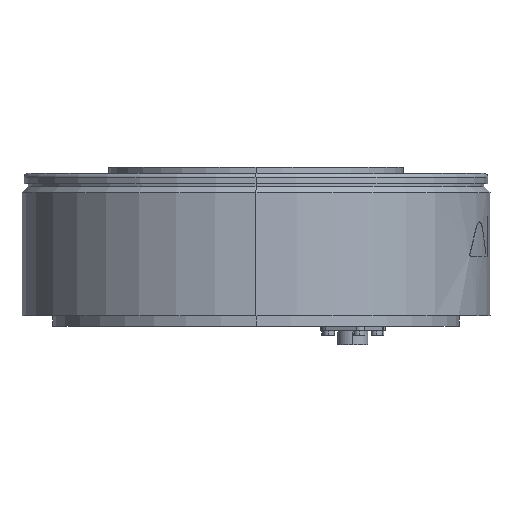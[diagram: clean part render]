
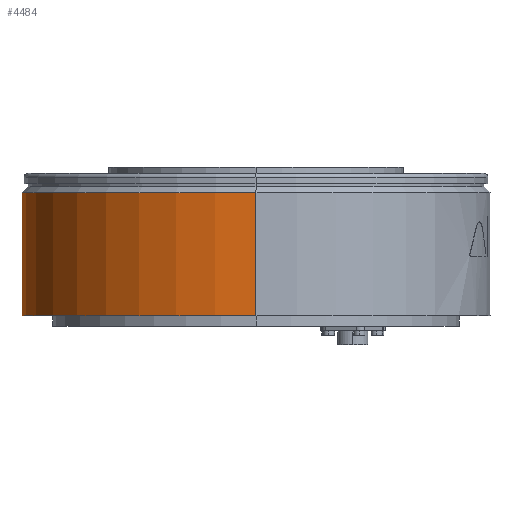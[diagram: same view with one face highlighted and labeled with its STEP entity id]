
A CAD part, left-side view. The second image highlights one B-rep face of the part: STEP entity #4484.
In plain terms, the highlighted cylindrical face has radius 115 mm (diameter 230 mm), a partial arc.
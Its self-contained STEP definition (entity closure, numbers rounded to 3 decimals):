
#2066 = CIRCLE ( 'NONE', #5755, 115. ) ;
#2615 = VERTEX_POINT ( 'NONE', #5949 ) ;
#2901 = EDGE_CURVE ( 'NONE', #3846, #2615, #2066, .T. ) ;
#3385 = LINE ( 'NONE', #10144, #3402 ) ;
#3391 = CIRCLE ( 'NONE', #10029, 115. ) ;
#3395 = LINE ( 'NONE', #10128, #3398 ) ;
#3398 = VECTOR ( 'NONE', #10129, 1000. ) ;
#3402 = VECTOR ( 'NONE', #10147, 1000. ) ;
#3618 = VERTEX_POINT ( 'NONE', #7962 ) ;
#3776 = VERTEX_POINT ( 'NONE', #8081 ) ;
#3846 = VERTEX_POINT ( 'NONE', #8117 ) ;
#4351 = FACE_OUTER_BOUND ( 'NONE', #6770, .T. ) ;
#4375 = CYLINDRICAL_SURFACE ( 'NONE', #9218, 115. ) ;
#4484 = ADVANCED_FACE ( 'NONE', ( #4351 ), #4375, .T. ) ;
#4825 = EDGE_CURVE ( 'NONE', #3776, #2615, #3395, .T. ) ;
#4829 = EDGE_CURVE ( 'NONE', #3618, #3776, #3391, .T. ) ;
#4833 = EDGE_CURVE ( 'NONE', #3618, #3846, #3385, .T. ) ;
#5755 = AXIS2_PLACEMENT_3D ( 'NONE', #7652, #7653, #7654 ) ;
#5949 = CARTESIAN_POINT ( 'NONE',  ( 115., 0., 5. ) ) ;
#6655 = ORIENTED_EDGE ( 'NONE', *, *, #4825, .T. ) ;
#6770 = EDGE_LOOP ( 'NONE', ( #7250, #6655, #7405, #6931 ) ) ;
#6931 = ORIENTED_EDGE ( 'NONE', *, *, #4833, .F. ) ;
#7250 = ORIENTED_EDGE ( 'NONE', *, *, #4829, .T. ) ;
#7405 = ORIENTED_EDGE ( 'NONE', *, *, #2901, .F. ) ;
#7652 = CARTESIAN_POINT ( 'NONE',  ( 0., 0., 5. ) ) ;
#7653 = DIRECTION ( 'NONE',  ( 0., 0., -1. ) ) ;
#7654 = DIRECTION ( 'NONE',  ( -1., 0., 0. ) ) ;
#7962 = CARTESIAN_POINT ( 'NONE',  ( -115., 0., 65.5 ) ) ;
#8081 = CARTESIAN_POINT ( 'NONE',  ( 115., 0., 65.5 ) ) ;
#8117 = CARTESIAN_POINT ( 'NONE',  ( -115., 0., 5. ) ) ;
#9218 = AXIS2_PLACEMENT_3D ( 'NONE', #9345, #9344, #9340 ) ;
#9340 = DIRECTION ( 'NONE',  ( -1., 0., 0. ) ) ;
#9344 = DIRECTION ( 'NONE',  ( 0., 0., -1. ) ) ;
#9345 = CARTESIAN_POINT ( 'NONE',  ( 0., 0., 0. ) ) ;
#10029 = AXIS2_PLACEMENT_3D ( 'NONE', #10136, #10138, #10139 ) ;
#10128 = CARTESIAN_POINT ( 'NONE',  ( 115., 0., 0. ) ) ;
#10129 = DIRECTION ( 'NONE',  ( 0., 0., -1. ) ) ;
#10136 = CARTESIAN_POINT ( 'NONE',  ( 0., 0., 65.5 ) ) ;
#10138 = DIRECTION ( 'NONE',  ( 0., 0., -1. ) ) ;
#10139 = DIRECTION ( 'NONE',  ( -1., 0., 0. ) ) ;
#10144 = CARTESIAN_POINT ( 'NONE',  ( -115., 0., 0. ) ) ;
#10147 = DIRECTION ( 'NONE',  ( 0., 0., -1. ) ) ;
